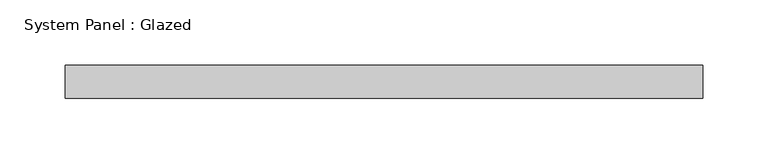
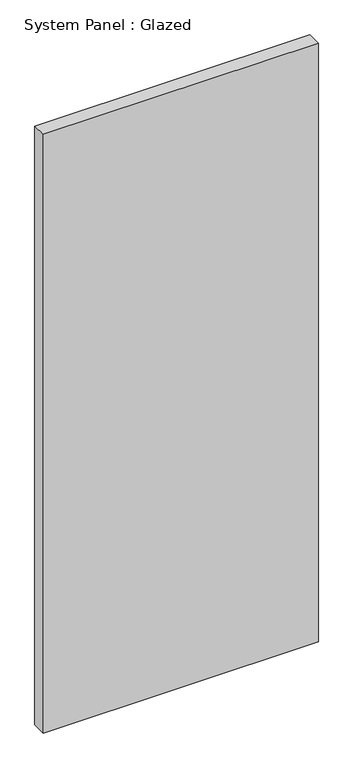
"""IFC4 building model written with IfcOpenShell, lengths in millimetres: plate geometry, System Panel : Glazed."""

from ifc_helpers import new_model, si_unit, origin, origin_with_axes, place, context, project, spatial, polyline, outline, extrude, source, transform, mapped, element, save


def system_panel_glazed_9ce660bb(model_context):
    return source(origin(), model_context, "Body", "SweptSolid", [
        extrude(outline(polyline([(244.475, -44.45), (-244.475, -44.45), (-244.475, -19.05), (244.475, -19.05), (244.475, -44.45)])), origin_with_axes(), (0.0, 0.0, 1.0), 1123.95),
    ])


if __name__ == "__main__":
    model = new_model("IFC4")
    model_context = context("Model", 3, world=origin())
    ifc_project = project(units=[si_unit("LENGTHUNIT", "METRE", prefix="MILLI")], contexts=[model_context])
    site = spatial("IfcSite", under=ifc_project)
    building = spatial("IfcBuilding", under=site)
    placement = place(None, origin())
    system_panel_glazed_shape = system_panel_glazed_9ce660bb(model_context)
    element("IfcPlate", 1, ObjectType="System Panel : Glazed", at=placement, inside=building, context=model_context, shape_type="MappedRepresentation", body=[
        mapped(system_panel_glazed_shape, transform((0.0, 0.0, 0.0), x_axis=(1.0, 0.0, 0.0), y_axis=(0.0, 1.0, 0.0), z_axis=(0.0, 0.0, 1.0))),
    ])
    save(model, "model.ifc")
